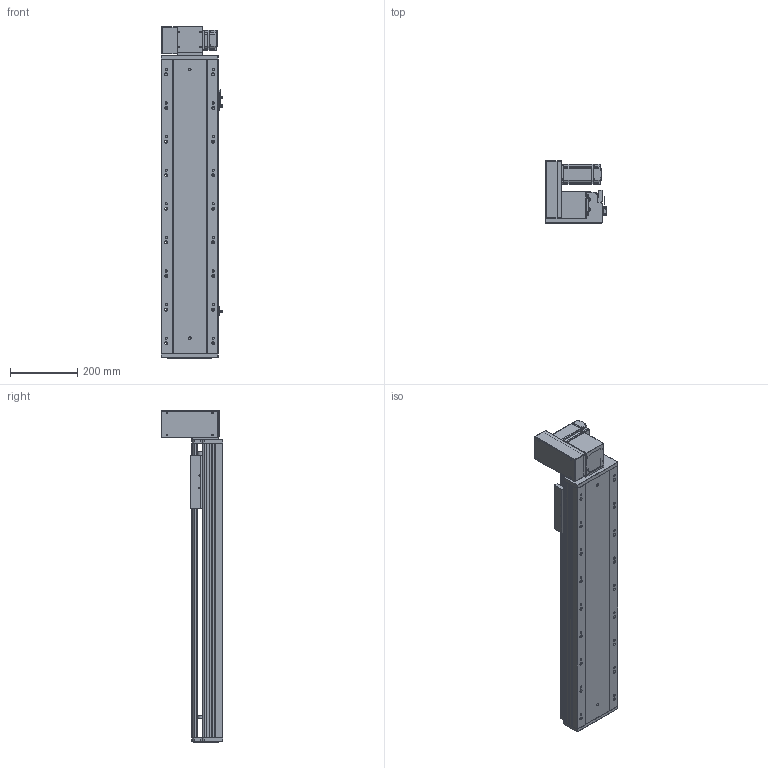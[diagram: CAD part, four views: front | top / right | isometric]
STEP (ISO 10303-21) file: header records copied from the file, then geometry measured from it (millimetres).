
FILE_DESCRIPTION (( 'STEP AP203' ), '1' );
FILE_NAME ('RY170-T-300-UL-P400W.SLDASM_600.step', '2021-03-02T02:12:21', ( '盈信电脑' ), ( '东莞市道滘镇水果街19号' ), 'SwSTEP 2.0', 'SolidWorks 2012', '' );
FILE_SCHEMA (( 'CONFIG_CONTROL_DESIGN' ));
Length unit declared in the file: millimetre
Products named in the file (18): RY170-T蹟翐M4; 15; RY170-T-300-UL-P400W.SLDASM_600; RY170肮祭謫萇儂欶; 滅袉蝶18-10; RY120-T主同步轮轴承压盖; RY170同步轮电机安装板(400W); RY170-T肮祭湍揤踡輸2; RY170-T肮祭謫裔啣; RY170-T肮祭湍揤踡輸1; RY170外置感应片(200共用）; RY170肮祭謫ヶ裔啣; 覜茼ん672; RY170翋肮祭謫釱; RY170-T-300肮祭謫倰第裔啣-DL_600; RY170肮祭湍臏賑輸; RY170-T-300肮祭謫倰第菁釱-DL_600; RY170綴裔啣
Assembly tree (20 placements, depth 2):
  RY170-T-300-UL-P400W.SLDASM_600
    RY170-T-300肮祭謫倰第菁釱-DL_600
    RY170肮祭湍臏賑輸
    RY170-T-300肮祭謫倰第裔啣-DL_600
    RY170綴裔啣
    覜茼ん672  x3
    RY170外置感应片(200共用）
    RY170肮祭謫ヶ裔啣
    RY170翋肮祭謫釱
    RY170-T肮祭湍揤踡輸1
    RY170-T肮祭湍揤踡輸2
    RY170-T肮祭謫裔啣
    滅袉蝶18-10  x2
    RY120-T主同步轮轴承压盖
    RY170肮祭謫萇儂欶
    RY170同步轮电机安装板(400W)
    RY170-T蹟翐M4
    15
Bounding box: 183.7 x 184 x 988 mm (x, y, z)
Volume: 5194104.3 mm3; surface area: 1735055.5 mm2
Topology: 20 solids, 20 shells, 2565 faces, 7202 edges, 4633 vertices
Faces by surface type: cylinder 1174, plane 1149, cone 212, bspline 30
Entity records: 82656 total; most frequent: CARTESIAN_POINT 18824, ORIENTED_EDGE 13096, DIRECTION 12738, EDGE_CURVE 6548, AXIS2_PLACEMENT_3D 4469, VERTEX_POINT 4301, LINE 3800, VECTOR 3800
